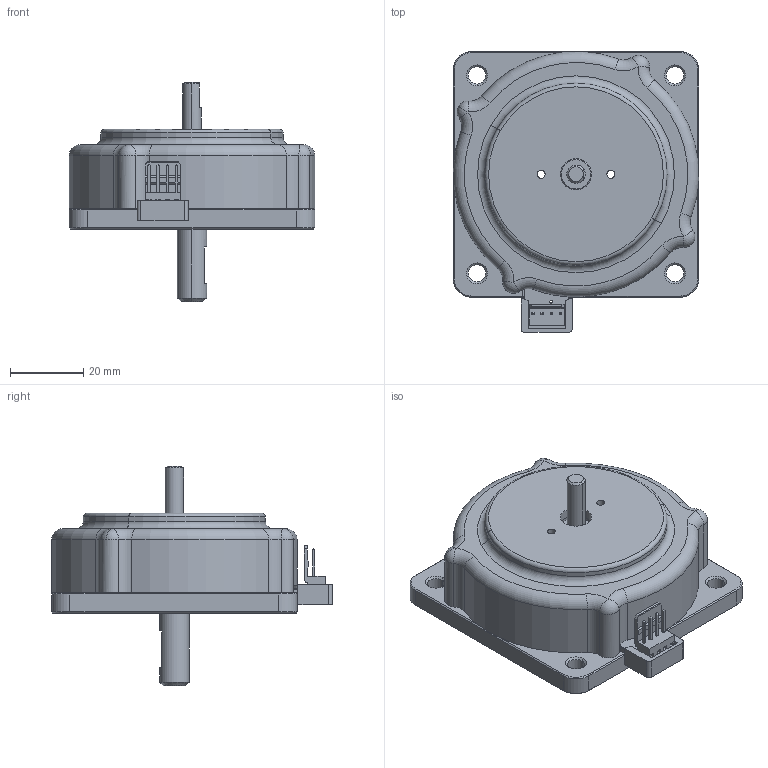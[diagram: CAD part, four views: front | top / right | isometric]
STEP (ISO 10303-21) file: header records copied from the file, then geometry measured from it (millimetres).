
FILE_DESCRIPTION (( 'STEP AP214' ), '1' );
FILE_NAME ('USR60_S4N_Shape.STEP', '2008-07-15T06:20:35', ( 'K.Tada' ), ( 'SHINSEI' ), 'SwSTEP 2.0', 'SolidWorks 2007', '' );
FILE_SCHEMA (( 'AUTOMOTIVE_DESIGN' ));
Length unit declared in the file: millimetre
Products named in the file (1): USR60_S4N_Shape
Bounding box: 67 x 76.6 x 60 mm (x, y, z)
Surface area: 19573.6 mm2 (no closed solid volume)
Topology: 0 solids, 23 shells, 313 faces, 882 edges, 590 vertices
Faces by surface type: plane 153, cylinder 70, cone 67, torus 18, sphere 5
Entity records: 13542 total; most frequent: DIRECTION 1846, CARTESIAN_POINT 1798, ORIENTED_EDGE 1537, EDGE_CURVE 878, AXIS2_PLACEMENT_3D 658, VERTEX_POINT 588, VECTOR 530, LINE 530
